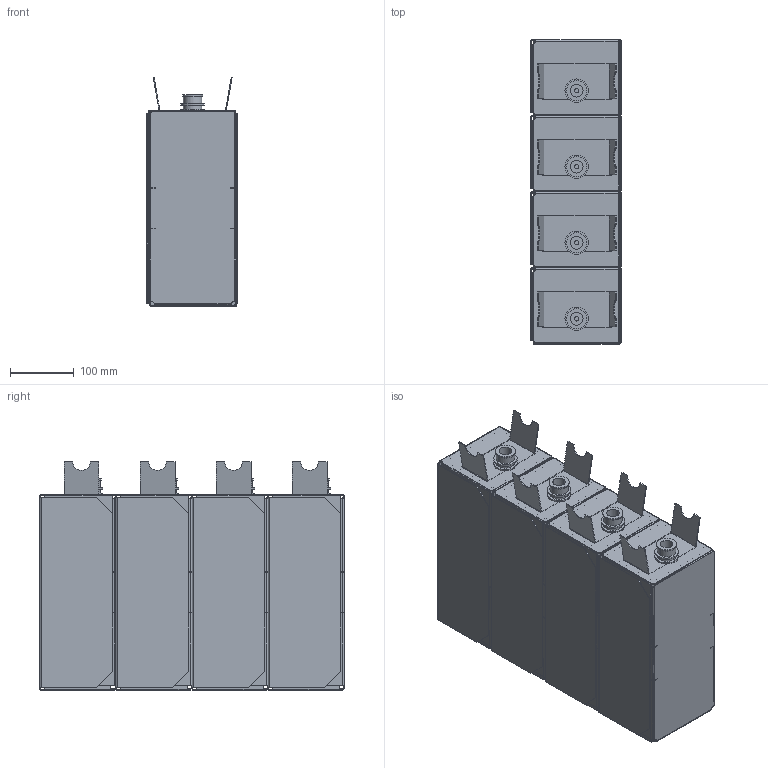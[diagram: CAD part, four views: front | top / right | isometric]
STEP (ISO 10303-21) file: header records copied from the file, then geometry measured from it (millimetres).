
FILE_DESCRIPTION (( 'STEP AP203' ), '1' );
FILE_NAME ('Bevi Flavor Bibs_ 1x4.STEP', '2025-11-13T16:11:11', ( '' ), ( '' ), 'SwSTEP 2.0', 'SolidWorks 2025', '' );
FILE_SCHEMA (( 'CONFIG_CONTROL_DESIGN' ));
Length unit declared in the file: inch
Products named in the file (2): Bevi Flavor Bib _ Single.step; Bevi Flavor Bibs_ 1x4
Assembly tree (4 placements, depth 2):
  Bevi Flavor Bibs_ 1x4
    Bevi Flavor Bib _ Single.step  x4
Bounding box: 141.56 x 477.47 x 358.98 mm (x, y, z)
Volume: 1733655.9 mm3; surface area: 2571783.8 mm2
Topology: 20 solids, 20 shells, 1576 faces, 4176 edges, 2656 vertices
Faces by surface type: plane 1172, cylinder 212, bspline 192
Entity records: 13277 total; most frequent: CARTESIAN_POINT 3666, ORIENTED_EDGE 2088, DIRECTION 1650, EDGE_CURVE 1044, LINE 832, VECTOR 832, VERTEX_POINT 664, AXIS2_PLACEMENT_3D 409
